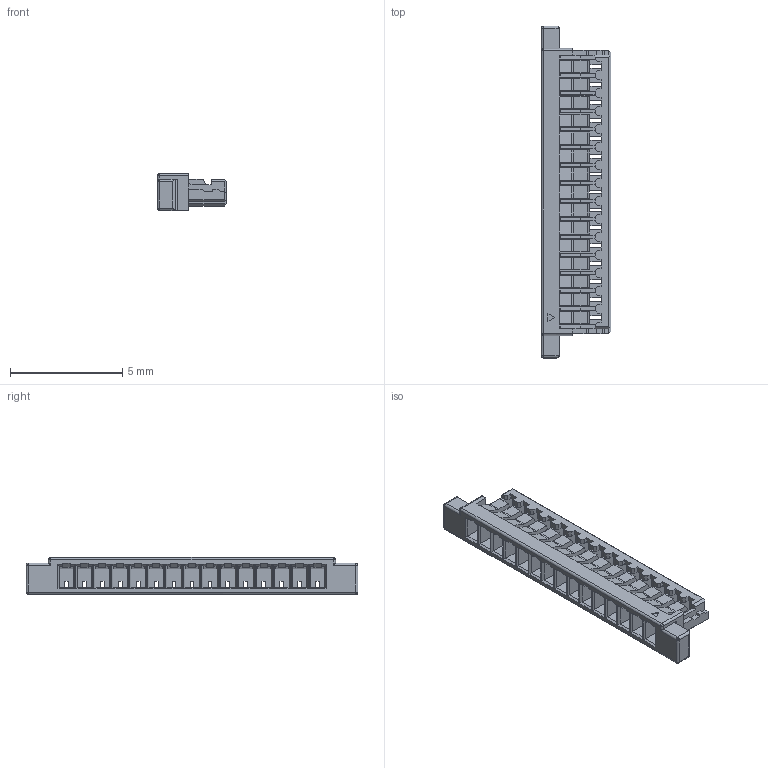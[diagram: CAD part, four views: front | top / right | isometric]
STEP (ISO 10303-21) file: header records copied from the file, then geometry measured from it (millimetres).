
FILE_DESCRIPTION((''),'2;1');
FILE_NAME('SCT0801H-15','2023-04-10T17:15:32',('Administrator'),(''),'CREO PARAMETRIC BY PTC INC, 2018050','CREO PARAMETRIC BY PTC INC, 2018050','');
FILE_SCHEMA(('CONFIG_CONTROL_DESIGN'));
Length unit declared in the file: millimetre
Products named in the file (1): SCT0801H-15
Bounding box: 3.1 x 14.8 x 1.65 mm (x, y, z)
Volume: 26.4 mm3; surface area: 269.8 mm2
Topology: 1 solids, 1 shells, 758 faces, 2099 edges, 1290 vertices
Faces by surface type: plane 681, cylinder 65, sphere 12
Entity records: 23612 total; most frequent: CARTESIAN_POINT 4416, ORIENTED_EDGE 4180, DIRECTION 3645, EDGE_CURVE 2090, VECTOR 1937, LINE 1937, VERTEX_POINT 1290, AXIS2_PLACEMENT_3D 854
